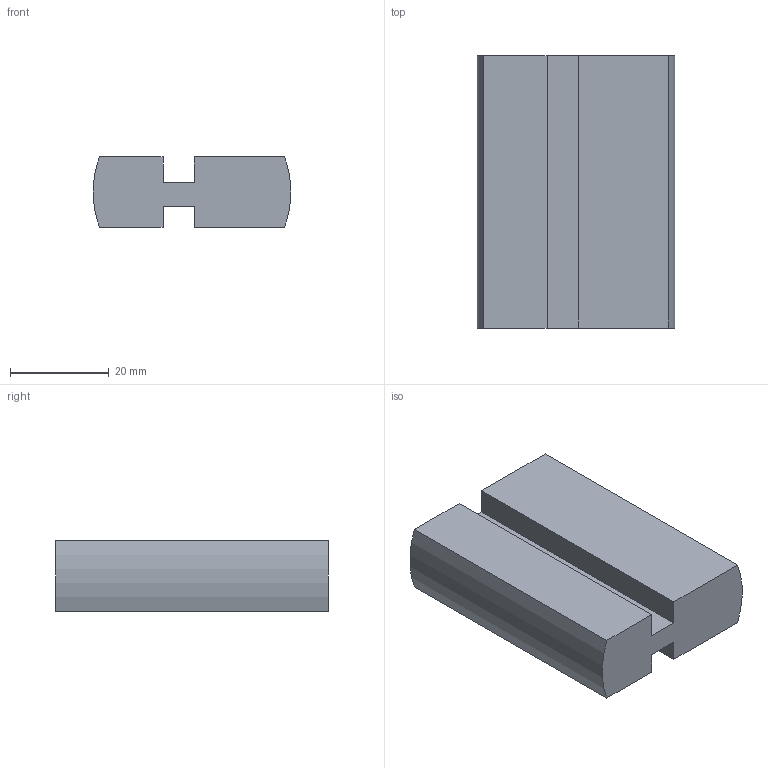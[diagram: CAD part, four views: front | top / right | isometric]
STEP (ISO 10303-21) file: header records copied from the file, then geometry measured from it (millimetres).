
FILE_DESCRIPTION(/* description */ (''),/* implementation_level */ '2;1');
FILE_NAME(/* name */ 'Z:\Projektname\Bauteile\Muster_Forum\Neuer Ordner\STEP\Mittelteil.step',/* time_stamp */ '2025-02-17T07:16:08+01:00',/* author */ ('MVM1'),/* organization */ (''),/* preprocessor_version */ 'ST-DEVELOPER v19',/* originating_system */ 'Autodesk Inventor 2023',/* authorisation */ '');
FILE_SCHEMA (('CONFIG_CONTROL_DESIGN'));
Length unit declared in the file: millimetre
Products named in the file (1): Mittelteil
Bounding box: 39.89 x 55 x 14.25 mm (x, y, z)
Volume: 27350.5 mm3; surface area: 7757.6 mm2
Topology: 1 solids, 1 shells, 14 faces, 36 edges, 24 vertices
Faces by surface type: plane 12, cylinder 2
Entity records: 467 total; most frequent: CARTESIAN_POINT 75, ORIENTED_EDGE 72, DIRECTION 70, EDGE_CURVE 36, LINE 32, VECTOR 32, VERTEX_POINT 24, AXIS2_PLACEMENT_3D 19
